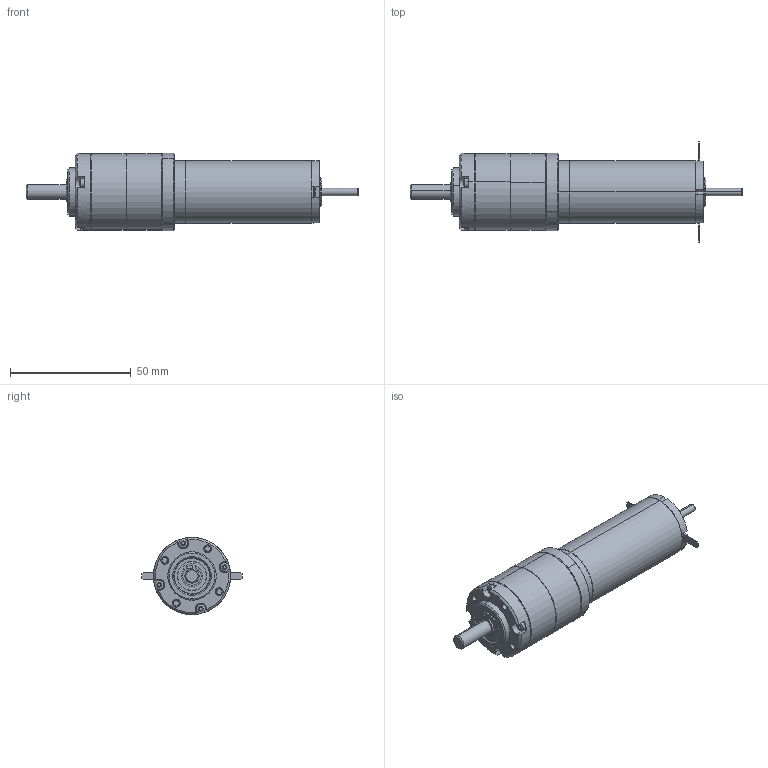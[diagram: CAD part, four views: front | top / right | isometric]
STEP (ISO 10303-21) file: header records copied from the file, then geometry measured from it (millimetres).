
FILE_DESCRIPTION (( 'STEP AP214' ), '1' );
FILE_NAME ('DCX26LG + PM32 2 etages.STEP', '2015-05-28T13:06:31', ( '' ), ( '' ), 'SwSTEP 2.0', 'SolidWorks 2014', '' );
FILE_SCHEMA (( 'AUTOMOTIVE_DESIGN' ));
Length unit declared in the file: millimetre
Products named in the file (20): PM32 pour RE25_2 etages; DCX26LG + PM32 2 etages; P8209_8100249_ZAHNKRANZ_1ST_1; Coté moteur^PM32 pour RE25; SCHRAUBE_1237409; MOTORRITZEL_Z17_1248761; 8011610_ANLAUFSCHEIBE_G_1ST_1; MOTORFLANSCH_1248630; Coté sortie^PM32 pour RE25; FLACHKOPFSCHRAUBE_M2X21_PRECOTE_1; GK235_POS42_DICHTRING_1; DIN471_SR_06X00_7_1; GK545_POS23_4_ABTRIEB_LK4_KPL_1; GK235_POS13_LAGERBOLZEN_1; GK545_POS22_ABTRIEB_ROHTEIL_AF0_1; DIN998_PS_6X12X0_5_1; D625-619_6-2Z_1; D472_15X1_1; 8101913_LAGERFLANSCH_1; DCX26LG_Part
Assembly tree (33 placements, depth 5):
  DCX26LG + PM32 2 etages
    DCX26LG_Part
    PM32 pour RE25_2 etages
      Coté sortie^PM32 pour RE25
        8101913_LAGERFLANSCH_1
        D472_15X1_1
        D625-619_6-2Z_1  x2
        DIN998_PS_6X12X0_5_1  x2
        GK545_POS23_4_ABTRIEB_LK4_KPL_1
          GK545_POS22_ABTRIEB_ROHTEIL_AF0_1
          GK235_POS13_LAGERBOLZEN_1  x3
        DIN471_SR_06X00_7_1
        GK235_POS42_DICHTRING_1
        FLACHKOPFSCHRAUBE_M2X21_PRECOTE_1  x4
      Coté moteur^PM32 pour RE25
        GK235_POS42_DICHTRING_1
        MOTORFLANSCH_1248630
        8011610_ANLAUFSCHEIBE_G_1ST_1
        MOTORRITZEL_Z17_1248761
        SCHRAUBE_1237409  x3
      P8209_8100249_ZAHNKRANZ_1ST_1  x3
      GK235_POS42_DICHTRING_1  x2
Bounding box: 137.65 x 41.5 x 32 mm (x, y, z)
Volume: 47742.1 mm3; surface area: 44832.2 mm2
Topology: 39 solids, 65 shells, 2950 faces, 7696 edges, 4952 vertices
Faces by surface type: plane 1171, cylinder 1103, cone 471, bspline 205
Entity records: 86910 total; most frequent: CARTESIAN_POINT 16968, DIRECTION 11755, ORIENTED_EDGE 11410, EDGE_CURVE 5724, AXIS2_PLACEMENT_3D 4174, VERTEX_POINT 3656, LINE 3407, VECTOR 3407
